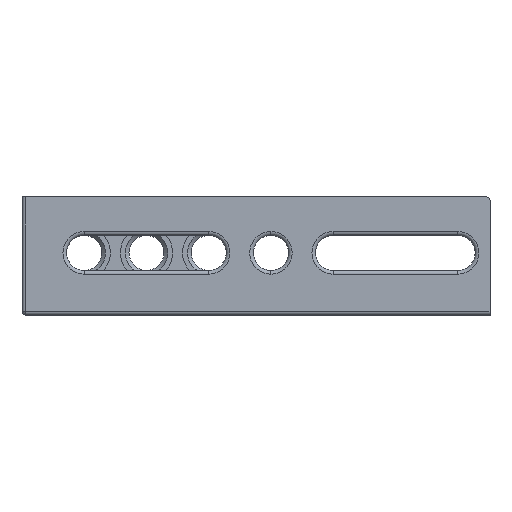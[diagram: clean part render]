
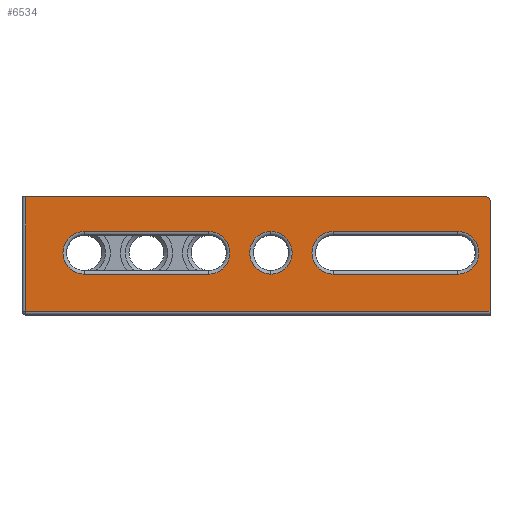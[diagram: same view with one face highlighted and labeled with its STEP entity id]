
A CAD part, front view. The second image highlights one B-rep face of the part: STEP entity #6534.
In plain terms, the highlighted planar face has unit normal (0, -1, 0).
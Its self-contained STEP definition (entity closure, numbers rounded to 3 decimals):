
#204 = ORIENTED_EDGE ( 'NONE', *, *, #3090, .F. ) ;
#384 = EDGE_LOOP ( 'NONE', ( #31533, #19682, #7593, #1978, #32788 ) ) ;
#411 = VERTEX_POINT ( 'NONE', #21646 ) ;
#745 = VERTEX_POINT ( 'NONE', #811 ) ;
#811 = CARTESIAN_POINT ( 'NONE',  ( 250., 0., 67.075 ) ) ;
#1088 = DIRECTION ( 'NONE',  ( 0., 0., 1. ) ) ;
#1458 = EDGE_CURVE ( 'NONE', #20399, #411, #16078, .T. ) ;
#1562 = ORIENTED_EDGE ( 'NONE', *, *, #5486, .F. ) ;
#1609 = ORIENTED_EDGE ( 'NONE', *, *, #28022, .F. ) ;
#1843 = CARTESIAN_POINT ( 'NONE',  ( 376., 0., 3. ) ) ;
#1978 = ORIENTED_EDGE ( 'NONE', *, *, #20666, .F. ) ;
#2950 = CIRCLE ( 'NONE', #32466, 17.075 ) ;
#3090 = EDGE_CURVE ( 'NONE', #35223, #745, #10494, .T. ) ;
#3326 = DIRECTION ( 'NONE',  ( 0., -1., 0. ) ) ;
#3471 = CARTESIAN_POINT ( 'NONE',  ( 250., 0., 67.075 ) ) ;
#3555 = CARTESIAN_POINT ( 'NONE',  ( 350., 0., 32.925 ) ) ;
#3697 = ORIENTED_EDGE ( 'NONE', *, *, #10510, .F. ) ;
#3753 = EDGE_LOOP ( 'NONE', ( #1609, #10271 ) ) ;
#4610 = LINE ( 'NONE', #29811, #11487 ) ;
#4611 = FACE_BOUND ( 'NONE', #22219, .T. ) ;
#5341 = CIRCLE ( 'NONE', #9010, 17.075 ) ;
#5486 = EDGE_CURVE ( 'NONE', #14386, #20399, #15864, .T. ) ;
#5726 = CARTESIAN_POINT ( 'NONE',  ( 3., 0., 95. ) ) ;
#6444 = VECTOR ( 'NONE', #19939, 1000. ) ;
#6534 = ADVANCED_FACE ( 'NONE', ( #12413, #4611, #14212, #13313 ), #28361, .T. ) ;
#6561 = ORIENTED_EDGE ( 'NONE', *, *, #33703, .F. ) ;
#6811 = DIRECTION ( 'NONE',  ( 0., -1., 0. ) ) ;
#7020 = CARTESIAN_POINT ( 'NONE',  ( 373., 0., 92. ) ) ;
#7340 = EDGE_CURVE ( 'NONE', #11907, #21631, #17004, .T. ) ;
#7593 = ORIENTED_EDGE ( 'NONE', *, *, #7340, .F. ) ;
#8785 = CARTESIAN_POINT ( 'NONE',  ( 50., 0., 50. ) ) ;
#8948 = EDGE_CURVE ( 'NONE', #28473, #27758, #26108, .T. ) ;
#9010 = AXIS2_PLACEMENT_3D ( 'NONE', #36187, #18683, #1088 ) ;
#9475 = CARTESIAN_POINT ( 'NONE',  ( 350., 0., 50. ) ) ;
#9764 = LINE ( 'NONE', #3555, #16634 ) ;
#9932 = DIRECTION ( 'NONE',  ( 0., 0., 1. ) ) ;
#10271 = ORIENTED_EDGE ( 'NONE', *, *, #8948, .F. ) ;
#10494 = LINE ( 'NONE', #3471, #16460 ) ;
#10510 = EDGE_CURVE ( 'NONE', #36914, #35223, #21484, .T. ) ;
#10684 = CARTESIAN_POINT ( 'NONE',  ( 0., 0., 3. ) ) ;
#11120 = CARTESIAN_POINT ( 'NONE',  ( 350., 0., 67.075 ) ) ;
#11487 = VECTOR ( 'NONE', #12251, 1000. ) ;
#11738 = DIRECTION ( 'NONE',  ( 0., 0., 1. ) ) ;
#11784 = DIRECTION ( 'NONE',  ( -1., 0., 0. ) ) ;
#11907 = VERTEX_POINT ( 'NONE', #5726 ) ;
#12251 = DIRECTION ( 'NONE',  ( 0., 0., -1. ) ) ;
#12413 = FACE_BOUND ( 'NONE', #37032, .T. ) ;
#12421 = DIRECTION ( 'NONE',  ( 0., 0., 1. ) ) ;
#12446 = CIRCLE ( 'NONE', #32064, 17.075 ) ;
#13313 = FACE_OUTER_BOUND ( 'NONE', #384, .T. ) ;
#13496 = DIRECTION ( 'NONE',  ( 0., 0., 1. ) ) ;
#13542 = CARTESIAN_POINT ( 'NONE',  ( 250., 0., 50. ) ) ;
#13613 = CARTESIAN_POINT ( 'NONE',  ( 3., 0., 95. ) ) ;
#13725 = DIRECTION ( 'NONE',  ( 0., 0., 1. ) ) ;
#14212 = FACE_BOUND ( 'NONE', #3753, .T. ) ;
#14287 = VECTOR ( 'NONE', #14711, 1000. ) ;
#14386 = VERTEX_POINT ( 'NONE', #30620 ) ;
#14711 = DIRECTION ( 'NONE',  ( 1., 0., 0. ) ) ;
#15141 = DIRECTION ( 'NONE',  ( -1., 0., 0. ) ) ;
#15864 = LINE ( 'NONE', #20536, #30538 ) ;
#16078 = CIRCLE ( 'NONE', #19639, 17.075 ) ;
#16413 = AXIS2_PLACEMENT_3D ( 'NONE', #7020, #27532, #9932 ) ;
#16460 = VECTOR ( 'NONE', #15141, 1000. ) ;
#16507 = DIRECTION ( 'NONE',  ( 0., 0., 1. ) ) ;
#16600 = CARTESIAN_POINT ( 'NONE',  ( 0., 0., 95. ) ) ;
#16634 = VECTOR ( 'NONE', #27077, 1000. ) ;
#16819 = EDGE_CURVE ( 'NONE', #31553, #14386, #5341, .T. ) ;
#17004 = LINE ( 'NONE', #16600, #23947 ) ;
#17540 = LINE ( 'NONE', #13613, #30359 ) ;
#17861 = CARTESIAN_POINT ( 'NONE',  ( 250., 0., 32.925 ) ) ;
#17912 = CARTESIAN_POINT ( 'NONE',  ( 50., 0., 67.075 ) ) ;
#18393 = VERTEX_POINT ( 'NONE', #17861 ) ;
#18683 = DIRECTION ( 'NONE',  ( 0., -1., 0. ) ) ;
#19639 = AXIS2_PLACEMENT_3D ( 'NONE', #8785, #29296, #11738 ) ;
#19682 = ORIENTED_EDGE ( 'NONE', *, *, #30122, .F. ) ;
#19909 = EDGE_CURVE ( 'NONE', #18393, #36914, #9764, .T. ) ;
#19939 = DIRECTION ( 'NONE',  ( -1., 0., 0. ) ) ;
#20399 = VERTEX_POINT ( 'NONE', #17912 ) ;
#20520 = CARTESIAN_POINT ( 'NONE',  ( 150., 0., 32.925 ) ) ;
#20536 = CARTESIAN_POINT ( 'NONE',  ( 50., 0., 67.075 ) ) ;
#20666 = EDGE_CURVE ( 'NONE', #31028, #11907, #17540, .T. ) ;
#20949 = CARTESIAN_POINT ( 'NONE',  ( 200., 0., 50. ) ) ;
#20969 = VERTEX_POINT ( 'NONE', #35520 ) ;
#21151 = LINE ( 'NONE', #10684, #6444 ) ;
#21484 = CIRCLE ( 'NONE', #34373, 17.075 ) ;
#21631 = VERTEX_POINT ( 'NONE', #21691 ) ;
#21646 = CARTESIAN_POINT ( 'NONE',  ( 50., 0., 32.925 ) ) ;
#21691 = CARTESIAN_POINT ( 'NONE',  ( 373., 0., 95. ) ) ;
#22219 = EDGE_LOOP ( 'NONE', ( #204, #3697, #37970, #6561 ) ) ;
#22234 = CARTESIAN_POINT ( 'NONE',  ( 150., 0., 32.925 ) ) ;
#22494 = CARTESIAN_POINT ( 'NONE',  ( 0., 0., 95. ) ) ;
#23900 = DIRECTION ( 'NONE',  ( 0., 0., 1. ) ) ;
#23947 = VECTOR ( 'NONE', #37086, 1000. ) ;
#24402 = ORIENTED_EDGE ( 'NONE', *, *, #26213, .F. ) ;
#24412 = CARTESIAN_POINT ( 'NONE',  ( 200., 0., 50. ) ) ;
#25018 = AXIS2_PLACEMENT_3D ( 'NONE', #22494, #31294, #13725 ) ;
#26108 = CIRCLE ( 'NONE', #30912, 17.075 ) ;
#26213 = EDGE_CURVE ( 'NONE', #411, #31553, #29919, .T. ) ;
#26790 = CARTESIAN_POINT ( 'NONE',  ( 200., 0., 32.925 ) ) ;
#27077 = DIRECTION ( 'NONE',  ( 1., 0., 0. ) ) ;
#27347 = DIRECTION ( 'NONE',  ( 0., 0., 1. ) ) ;
#27532 = DIRECTION ( 'NONE',  ( 0., 1., 0. ) ) ;
#27758 = VERTEX_POINT ( 'NONE', #36558 ) ;
#28022 = EDGE_CURVE ( 'NONE', #27758, #28473, #12446, .T. ) ;
#28361 = PLANE ( 'NONE',  #25018 ) ;
#28390 = ORIENTED_EDGE ( 'NONE', *, *, #1458, .F. ) ;
#28473 = VERTEX_POINT ( 'NONE', #26790 ) ;
#28732 = EDGE_CURVE ( 'NONE', #20969, #37818, #4610, .T. ) ;
#29193 = ORIENTED_EDGE ( 'NONE', *, *, #16819, .F. ) ;
#29296 = DIRECTION ( 'NONE',  ( 0., -1., 0. ) ) ;
#29811 = CARTESIAN_POINT ( 'NONE',  ( 376., 0., 95. ) ) ;
#29919 = LINE ( 'NONE', #20520, #14287 ) ;
#29993 = DIRECTION ( 'NONE',  ( 0., -1., 0. ) ) ;
#30122 = EDGE_CURVE ( 'NONE', #21631, #20969, #32037, .T. ) ;
#30359 = VECTOR ( 'NONE', #13496, 1000. ) ;
#30538 = VECTOR ( 'NONE', #11784, 1000. ) ;
#30620 = CARTESIAN_POINT ( 'NONE',  ( 150., 0., 67.075 ) ) ;
#30912 = AXIS2_PLACEMENT_3D ( 'NONE', #24412, #6811, #27347 ) ;
#31028 = VERTEX_POINT ( 'NONE', #34380 ) ;
#31294 = DIRECTION ( 'NONE',  ( 0., -1., 0. ) ) ;
#31533 = ORIENTED_EDGE ( 'NONE', *, *, #28732, .F. ) ;
#31553 = VERTEX_POINT ( 'NONE', #22234 ) ;
#32037 = CIRCLE ( 'NONE', #16413, 3. ) ;
#32064 = AXIS2_PLACEMENT_3D ( 'NONE', #20949, #3326, #23900 ) ;
#32466 = AXIS2_PLACEMENT_3D ( 'NONE', #13542, #34048, #16507 ) ;
#32788 = ORIENTED_EDGE ( 'NONE', *, *, #37839, .F. ) ;
#33523 = CARTESIAN_POINT ( 'NONE',  ( 350., 0., 32.925 ) ) ;
#33703 = EDGE_CURVE ( 'NONE', #745, #18393, #2950, .T. ) ;
#34048 = DIRECTION ( 'NONE',  ( 0., -1., 0. ) ) ;
#34373 = AXIS2_PLACEMENT_3D ( 'NONE', #9475, #29993, #12421 ) ;
#34380 = CARTESIAN_POINT ( 'NONE',  ( 3., 0., 3. ) ) ;
#35223 = VERTEX_POINT ( 'NONE', #11120 ) ;
#35520 = CARTESIAN_POINT ( 'NONE',  ( 376., 0., 92. ) ) ;
#36187 = CARTESIAN_POINT ( 'NONE',  ( 150., 0., 50. ) ) ;
#36558 = CARTESIAN_POINT ( 'NONE',  ( 200., 0., 67.075 ) ) ;
#36914 = VERTEX_POINT ( 'NONE', #33523 ) ;
#37032 = EDGE_LOOP ( 'NONE', ( #1562, #29193, #24402, #28390 ) ) ;
#37086 = DIRECTION ( 'NONE',  ( 1., 0., 0. ) ) ;
#37818 = VERTEX_POINT ( 'NONE', #1843 ) ;
#37839 = EDGE_CURVE ( 'NONE', #37818, #31028, #21151, .T. ) ;
#37970 = ORIENTED_EDGE ( 'NONE', *, *, #19909, .F. ) ;
